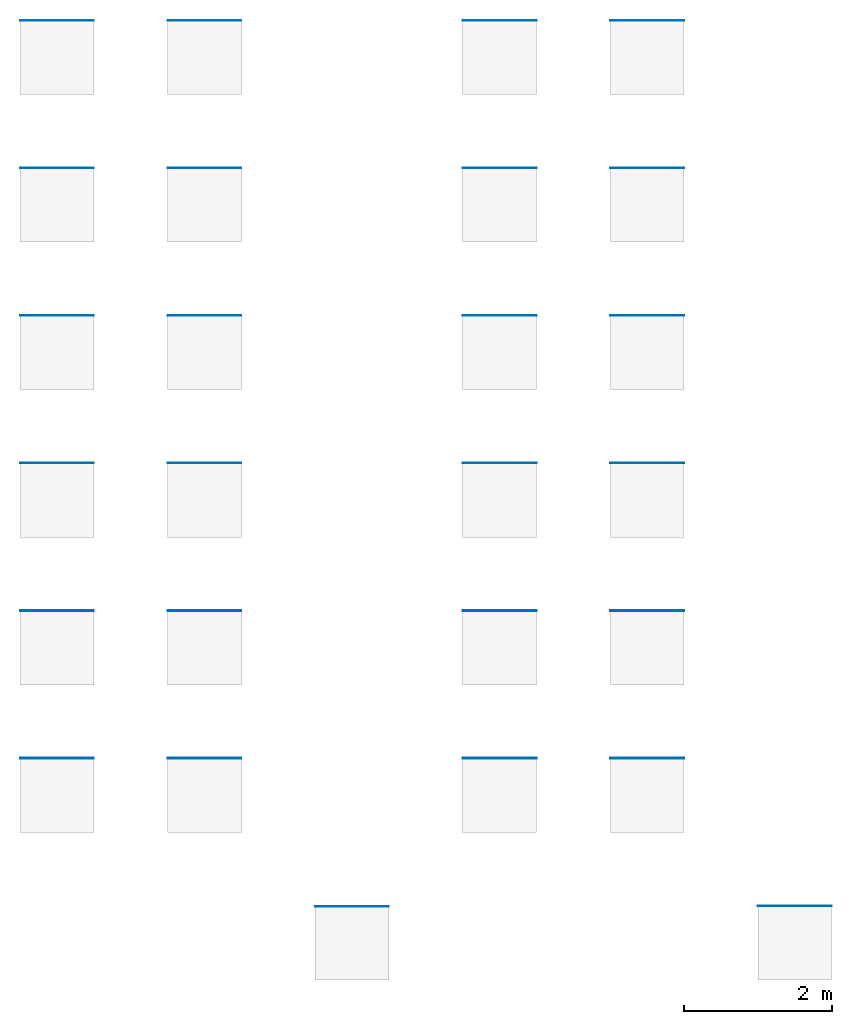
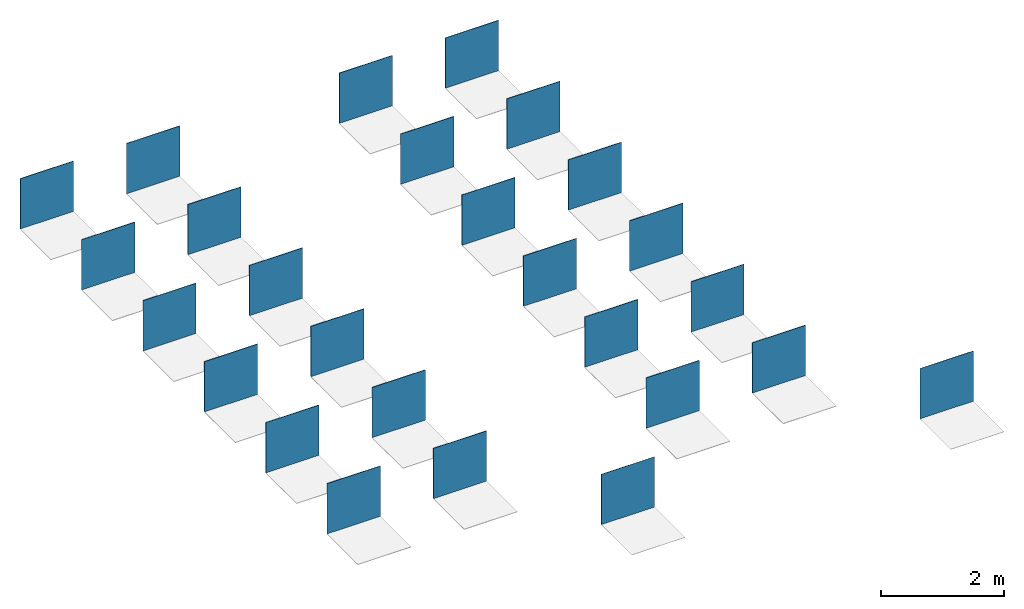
# One storey, part 1 of 2: 26 walls.
"""IFC2X3 building model written with IfcOpenShell, lengths in millimetres."""

from ifc_helpers import new_model, entity, si_unit, converted_unit, derived_unit, direction, frame, frame_2d, origin, place, context, subcontext, project, spatial, rectangle, extrude, material, layer, layer_set, layer_usage, type_object, element, save


model = new_model("IFC2X3")

# Units and contexts
model_context = context("Model", 3, precision=0.01, world=origin(), true_north=direction((6.12303176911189e-17, 1.0)))
body_context = subcontext(model_context, "Body", "Model", "MODEL_VIEW")
ifc_project = project(units=[si_unit("LENGTHUNIT", "METRE", prefix="MILLI"), si_unit("AREAUNIT", "SQUARE_METRE"), si_unit("VOLUMEUNIT", "CUBIC_METRE"), converted_unit("PLANEANGLEUNIT", "DEGREE", entity("IfcRatioMeasure", 0.0174532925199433), si_unit("PLANEANGLEUNIT", "RADIAN"), dimensions=[0, 0, 0, 0, 0, 0, 0]), si_unit("MASSUNIT", "GRAM", prefix="KILO"), derived_unit("MASSDENSITYUNIT", [(si_unit("MASSUNIT", "GRAM", prefix="KILO"), 1), (si_unit("LENGTHUNIT", "METRE"), -3)]), derived_unit("MOMENTOFINERTIAUNIT", [(si_unit("LENGTHUNIT", "METRE"), 4)]), si_unit("TIMEUNIT", "SECOND"), si_unit("FREQUENCYUNIT", "HERTZ"), si_unit("THERMODYNAMICTEMPERATUREUNIT", "DEGREE_CELSIUS"), derived_unit("THERMALTRANSMITTANCEUNIT", [(si_unit("MASSUNIT", "GRAM", prefix="KILO"), 1), (si_unit("THERMODYNAMICTEMPERATUREUNIT", "KELVIN"), -1), (si_unit("TIMEUNIT", "SECOND"), -3)]), derived_unit("VOLUMETRICFLOWRATEUNIT", [(si_unit("LENGTHUNIT", "METRE"), 3), (si_unit("TIMEUNIT", "SECOND"), -1)]), si_unit("ELECTRICCURRENTUNIT", "AMPERE"), si_unit("ELECTRICVOLTAGEUNIT", "VOLT"), si_unit("POWERUNIT", "WATT"), si_unit("FORCEUNIT", "NEWTON", prefix="KILO"), si_unit("ILLUMINANCEUNIT", "LUX"), si_unit("LUMINOUSFLUXUNIT", "LUMEN"), si_unit("LUMINOUSINTENSITYUNIT", "CANDELA"), derived_unit("USERDEFINED", [(si_unit("MASSUNIT", "GRAM", prefix="KILO"), -1), (si_unit("LENGTHUNIT", "METRE"), -2), (si_unit("TIMEUNIT", "SECOND"), 3), (si_unit("LUMINOUSFLUXUNIT", "LUMEN"), 1)]), derived_unit("LINEARVELOCITYUNIT", [(si_unit("LENGTHUNIT", "METRE"), 1), (si_unit("TIMEUNIT", "SECOND"), -1)]), si_unit("PRESSUREUNIT", "PASCAL"), derived_unit("USERDEFINED", [(si_unit("LENGTHUNIT", "METRE"), -2), (si_unit("MASSUNIT", "GRAM", prefix="KILO"), 1), (si_unit("TIMEUNIT", "SECOND"), -2)]), derived_unit("LINEARFORCEUNIT", [(si_unit("MASSUNIT", "GRAM", prefix="KILO"), 1), (si_unit("LENGTHUNIT", "METRE"), 1), (si_unit("TIMEUNIT", "SECOND"), -2), (si_unit("LENGTHUNIT", "METRE"), -1)]), derived_unit("PLANARFORCEUNIT", [(si_unit("MASSUNIT", "GRAM", prefix="KILO"), 1), (si_unit("LENGTHUNIT", "METRE"), 1), (si_unit("TIMEUNIT", "SECOND"), -2), (si_unit("LENGTHUNIT", "METRE"), -2)])], contexts=[model_context])

# Site, building, storey
site_placement = place(None, origin())
site = spatial("IfcSite", under=ifc_project, at=site_placement, Name="Default", CompositionType="ELEMENT")
building_placement = place(site_placement, origin())
building = spatial("IfcBuilding", under=site, at=building_placement, CompositionType="ELEMENT")
storey_placement = place(building_placement, origin())
storey = spatial("IfcBuildingStorey", under=building, at=storey_placement, Name="Level 1", CompositionType="ELEMENT", Elevation=0.0)

# Walls
ifc_material_1 = material(Name="REVIGRÉS-RULE-BASE-19.6x118.6-SILK-ALLOY")
ifc_layer_1 = layer(ifc_material_1, 10.5)
ifc_layer_set_1 = layer_set([ifc_layer_1], Name="Basic Wall:REVIGRÉS-RULE-BASE-19,6x118,6-SILK-ALLOY")
ifc_layer_usage_1 = layer_usage(ifc_layer_set_1, "AXIS2", "POSITIVE", -5.25)
wall_type_1 = type_object("IfcWallType", Name="Basic Wall:REVIGRÉS-RULE-BASE-19,6x118,6-SILK-ALLOY", PredefinedType="STANDARD", material=ifc_layer_set_1)
wall_1_placement = place(storey_placement, frame((105.346935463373, 19025.6276243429, 0.0)))
element("IfcWallStandardCase", 1, at=wall_1_placement, inside=storey, type_object=wall_type_1, material=ifc_layer_usage_1, Name="Basic Wall:REVIGRÉS-RULE-BASE-19,6x118,6-SILK-ALLOY:2486", ObjectType="Basic Wall:REVIGRÉS-RULE-BASE-19,6x118,6-SILK-ALLOY", context=body_context, shape_type="SweptSolid", body=[
    extrude(rectangle(XDim=1000.0, YDim=10.5000000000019, at=frame_2d((500.0, 5.41344746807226e-13), x_axis=(-1.0, 0.0))), origin(), (0.0, 0.0, 1.0), 1000.0),
])
ifc_material_2 = material(Name="REVIGRÉS-RULE-BASE-19.6x118.6-SILK-SMOG")
ifc_layer_2 = layer(ifc_material_2, 10.5)
ifc_layer_set_2 = layer_set([ifc_layer_2], Name="Basic Wall:REVIGRÉS-RULE-BASE-19,6x118,6-SILK-SMOG")
ifc_layer_usage_2 = layer_usage(ifc_layer_set_2, "AXIS2", "POSITIVE", -5.25)
wall_type_2 = type_object("IfcWallType", Name="Basic Wall:REVIGRÉS-RULE-BASE-19,6x118,6-SILK-SMOG", PredefinedType="STANDARD", material=ifc_layer_set_2)
wall_2_placement = place(storey_placement, frame((6105.34693546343, 19025.6276243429, 0.0)))
element("IfcWallStandardCase", 2, at=wall_2_placement, inside=storey, type_object=wall_type_2, material=ifc_layer_usage_2, Name="Basic Wall:REVIGRÉS-RULE-BASE-19,6x118,6-SILK-SMOG", ObjectType="Basic Wall:REVIGRÉS-RULE-BASE-19,6x118,6-SILK-SMOG", context=body_context, shape_type="SweptSolid", body=[
    extrude(rectangle(XDim=1000.0, YDim=10.5000000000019, at=frame_2d((500.0, 5.41344746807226e-13), x_axis=(-1.0, 0.0))), origin(), (0.0, 0.0, 1.0), 1000.0),
])
ifc_material_3 = material(Name="REVIGRÉS-RULE-BASE-19.6x118.6-SOFT GRIP-ALLOY")
ifc_layer_3 = layer(ifc_material_3, 10.5)
ifc_layer_set_3 = layer_set([ifc_layer_3], Name="Basic Wall:REVIGRÉS-RULE-BASE-19,6x118,6-SOFT GRIP-ALLOY")
ifc_layer_usage_3 = layer_usage(ifc_layer_set_3, "AXIS2", "POSITIVE", -5.25)
wall_type_3 = type_object("IfcWallType", Name="Basic Wall:REVIGRÉS-RULE-BASE-19,6x118,6-SOFT GRIP-ALLOY", PredefinedType="STANDARD", material=ifc_layer_set_3)
wall_3_placement = place(storey_placement, frame((2105.34693546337, 19025.6276243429, 0.0)))
element("IfcWallStandardCase", 3, at=wall_3_placement, inside=storey, type_object=wall_type_3, material=ifc_layer_usage_3, Name="Basic Wall:REVIGRÉS-RULE-BASE-19,6x118,6-SOFT GRIP-ALLOY", ObjectType="Basic Wall:REVIGRÉS-RULE-BASE-19,6x118,6-SOFT GRIP-ALLOY", context=body_context, shape_type="SweptSolid", body=[
    extrude(rectangle(XDim=1000.0, YDim=10.5000000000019, at=frame_2d((500.0, 5.41344746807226e-13), x_axis=(-1.0, 0.0))), origin(), (0.0, 0.0, 1.0), 1000.0),
])
ifc_material_4 = material(Name="REVIGRÉS-RULE-BASE-19.6x118.6-SOFT GRIP-SMOG")
ifc_layer_4 = layer(ifc_material_4, 10.5)
ifc_layer_set_4 = layer_set([ifc_layer_4], Name="Basic Wall:REVIGRÉS-RULE-BASE-19,6x118,6-SOFT GRIP-SMOG")
ifc_layer_usage_4 = layer_usage(ifc_layer_set_4, "AXIS2", "POSITIVE", -5.25)
wall_type_4 = type_object("IfcWallType", Name="Basic Wall:REVIGRÉS-RULE-BASE-19,6x118,6-SOFT GRIP-SMOG", PredefinedType="STANDARD", material=ifc_layer_set_4)
wall_4_placement = place(storey_placement, frame((8105.3469354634, 19025.6276243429, 0.0)))
element("IfcWallStandardCase", 4, at=wall_4_placement, inside=storey, type_object=wall_type_4, material=ifc_layer_usage_4, Name="Basic Wall:REVIGRÉS-RULE-BASE-19,6x118,6-SOFT GRIP-SMOG", ObjectType="Basic Wall:REVIGRÉS-RULE-BASE-19,6x118,6-SOFT GRIP-SMOG", context=body_context, shape_type="SweptSolid", body=[
    extrude(rectangle(XDim=999.999999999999, YDim=10.5000000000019, at=frame_2d((499.999999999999, 5.41344746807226e-13), x_axis=(-1.0, 0.0))), origin(), (0.0, 0.0, 1.0), 1000.0),
])
ifc_material_5 = material(Name="REVIGRÉS-RULE-BASE-19.6x178-SILK-ALLOY")
ifc_layer_5 = layer(ifc_material_5, 11.2)
ifc_layer_set_5 = layer_set([ifc_layer_5], Name="Basic Wall:REVIGRÉS-RULE-BASE-19,6x178-SILK-ALLOY")
ifc_layer_usage_5 = layer_usage(ifc_layer_set_5, "AXIS2", "POSITIVE", -5.6)
wall_type_5 = type_object("IfcWallType", Name="Basic Wall:REVIGRÉS-RULE-BASE-19,6x178-SILK-ALLOY", PredefinedType="STANDARD", material=ifc_layer_set_5)
wall_5_placement = place(storey_placement, frame((105.346935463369, 17025.9776243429, 0.0)))
element("IfcWallStandardCase", 5, at=wall_5_placement, inside=storey, type_object=wall_type_5, material=ifc_layer_usage_5, Name="Basic Wall:REVIGRÉS-RULE-BASE-19,6x178-SILK-ALLOY", ObjectType="Basic Wall:REVIGRÉS-RULE-BASE-19,6x178-SILK-ALLOY", context=body_context, shape_type="SweptSolid", body=[
    extrude(rectangle(XDim=1000.0, YDim=11.2000000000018, at=frame_2d((500.0, 5.41788836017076e-13), x_axis=(-1.0, 0.0))), origin(), (0.0, 0.0, 1.0), 1000.0),
])
ifc_material_6 = material(Name="REVIGRÉS-RULE-BASE-19.6x178-SILK-SMOG")
ifc_layer_6 = layer(ifc_material_6, 11.2)
ifc_layer_set_6 = layer_set([ifc_layer_6], Name="Basic Wall:REVIGRÉS-RULE-BASE-19,6x178-SILK-SMOG")
ifc_layer_usage_6 = layer_usage(ifc_layer_set_6, "AXIS2", "POSITIVE", -5.6)
wall_type_6 = type_object("IfcWallType", Name="Basic Wall:REVIGRÉS-RULE-BASE-19,6x178-SILK-SMOG", PredefinedType="STANDARD", material=ifc_layer_set_6)
wall_6_placement = place(storey_placement, frame((6105.3469354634, 17025.9776243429, 0.0)))
element("IfcWallStandardCase", 6, at=wall_6_placement, inside=storey, type_object=wall_type_6, material=ifc_layer_usage_6, Name="Basic Wall:REVIGRÉS-RULE-BASE-19,6x178-SILK-SMOG", ObjectType="Basic Wall:REVIGRÉS-RULE-BASE-19,6x178-SILK-SMOG", context=body_context, shape_type="SweptSolid", body=[
    extrude(rectangle(XDim=1000.0, YDim=11.2000000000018, at=frame_2d((500.0, 5.41788836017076e-13), x_axis=(-1.0, 0.0))), origin(), (0.0, 0.0, 1.0), 1000.0),
])
ifc_material_7 = material(Name="REVIGRÉS-RULE-BASE-19.6x178-SOFT GRIP-ALLOY")
ifc_layer_7 = layer(ifc_material_7, 11.2)
ifc_layer_set_7 = layer_set([ifc_layer_7], Name="Basic Wall:REVIGRÉS-RULE-BASE-19,6x178-SOFT GRIP-ALLOY")
ifc_layer_usage_7 = layer_usage(ifc_layer_set_7, "AXIS2", "POSITIVE", -5.6)
wall_type_7 = type_object("IfcWallType", Name="Basic Wall:REVIGRÉS-RULE-BASE-19,6x178-SOFT GRIP-ALLOY", PredefinedType="STANDARD", material=ifc_layer_set_7)
wall_7_placement = place(storey_placement, frame((2105.34693546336, 17025.9776243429, 0.0)))
element("IfcWallStandardCase", 7, at=wall_7_placement, inside=storey, type_object=wall_type_7, material=ifc_layer_usage_7, Name="Basic Wall:REVIGRÉS-RULE-BASE-19,6x178-SOFT GRIP-ALLOY", ObjectType="Basic Wall:REVIGRÉS-RULE-BASE-19,6x178-SOFT GRIP-ALLOY", context=body_context, shape_type="SweptSolid", body=[
    extrude(rectangle(XDim=1000.0, YDim=11.2000000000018, at=frame_2d((500.0, 5.41788836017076e-13), x_axis=(-1.0, 0.0))), origin(), (0.0, 0.0, 1.0), 1000.0),
])
ifc_material_8 = material(Name="REVIGRÉS-RULE-BASE-19.6x178-SOFT GRIP-SMOG")
ifc_layer_8 = layer(ifc_material_8, 11.2)
ifc_layer_set_8 = layer_set([ifc_layer_8], Name="Basic Wall:REVIGRÉS-RULE-BASE-19,6x178-SOFT GRIP-SMOG")
ifc_layer_usage_8 = layer_usage(ifc_layer_set_8, "AXIS2", "POSITIVE", -5.6)
wall_type_8 = type_object("IfcWallType", Name="Basic Wall:REVIGRÉS-RULE-BASE-19,6x178-SOFT GRIP-SMOG", PredefinedType="STANDARD", material=ifc_layer_set_8)
wall_8_placement = place(storey_placement, frame((8105.3469354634, 17025.9776243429, 0.0)))
element("IfcWallStandardCase", 8, at=wall_8_placement, inside=storey, type_object=wall_type_8, material=ifc_layer_usage_8, Name="Basic Wall:REVIGRÉS-RULE-BASE-19,6x178-SOFT GRIP-SMOG", ObjectType="Basic Wall:REVIGRÉS-RULE-BASE-19,6x178-SOFT GRIP-SMOG", context=body_context, shape_type="SweptSolid", body=[
    extrude(rectangle(XDim=999.999999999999, YDim=11.2000000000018, at=frame_2d((499.999999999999, 5.41788836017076e-13), x_axis=(-1.0, 0.0))), origin(), (0.0, 0.0, 1.0), 1000.0),
])
ifc_material_9 = material(Name="REVIGRÉS-RULE-BASE-29.5x118.6-SILK-ALLOY")
ifc_layer_9 = layer(ifc_material_9, 10.5)
ifc_layer_set_9 = layer_set([ifc_layer_9], Name="Basic Wall:REVIGRÉS-RULE-BASE-29,5x118,6-SILK-ALLOY")
ifc_layer_usage_9 = layer_usage(ifc_layer_set_9, "AXIS2", "POSITIVE", -5.25)
wall_type_9 = type_object("IfcWallType", Name="Basic Wall:REVIGRÉS-RULE-BASE-29,5x118,6-SILK-ALLOY", PredefinedType="STANDARD", material=ifc_layer_set_9)
wall_9_placement = place(storey_placement, frame((105.346935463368, 15025.6276243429, 0.0)))
element("IfcWallStandardCase", 9, at=wall_9_placement, inside=storey, type_object=wall_type_9, material=ifc_layer_usage_9, Name="Basic Wall:REVIGRÉS-RULE-BASE-29,5x118,6-SILK-ALLOY", ObjectType="Basic Wall:REVIGRÉS-RULE-BASE-29,5x118,6-SILK-ALLOY", context=body_context, shape_type="SweptSolid", body=[
    extrude(rectangle(XDim=1000.0, YDim=10.5000000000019, at=frame_2d((500.0, 5.41344746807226e-13), x_axis=(-1.0, 0.0))), origin(), (0.0, 0.0, 1.0), 1000.0),
])
ifc_material_10 = material(Name="REVIGRÉS-RULE-BASE-29.5x118.6-SOFT GRIP-ALLOY")
ifc_layer_10 = layer(ifc_material_10, 10.5)
ifc_layer_set_10 = layer_set([ifc_layer_10], Name="Basic Wall:REVIGRÉS-RULE-BASE-29,5x118,6-SOFT GRIP-ALLOY")
ifc_layer_usage_10 = layer_usage(ifc_layer_set_10, "AXIS2", "POSITIVE", -5.25)
wall_type_10 = type_object("IfcWallType", Name="Basic Wall:REVIGRÉS-RULE-BASE-29,5x118,6-SOFT GRIP-ALLOY", PredefinedType="STANDARD", material=ifc_layer_set_10)
wall_10_placement = place(storey_placement, frame((2105.34693546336, 15025.6276243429, 0.0)))
element("IfcWallStandardCase", 10, at=wall_10_placement, inside=storey, type_object=wall_type_10, material=ifc_layer_usage_10, Name="Basic Wall:REVIGRÉS-RULE-BASE-29,5x118,6-SOFT GRIP-ALLOY", ObjectType="Basic Wall:REVIGRÉS-RULE-BASE-29,5x118,6-SOFT GRIP-ALLOY", context=body_context, shape_type="SweptSolid", body=[
    extrude(rectangle(XDim=1000.0, YDim=10.5000000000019, at=frame_2d((500.0, 5.41344746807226e-13), x_axis=(-1.0, 0.0))), origin(), (0.0, 0.0, 1.0), 1000.0),
])
ifc_material_11 = material(Name="REVIGRÉS-RULE-BASE-29.5x178-SILK-ALLOY")
ifc_layer_11 = layer(ifc_material_11, 11.2)
ifc_layer_set_11 = layer_set([ifc_layer_11], Name="Basic Wall:REVIGRÉS-RULE-BASE-29,5x178-SILK-ALLOY")
ifc_layer_usage_11 = layer_usage(ifc_layer_set_11, "AXIS2", "POSITIVE", -5.6)
wall_type_11 = type_object("IfcWallType", Name="Basic Wall:REVIGRÉS-RULE-BASE-29,5x178-SILK-ALLOY", PredefinedType="STANDARD", material=ifc_layer_set_11)
wall_11_placement = place(storey_placement, frame((105.346935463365, 13025.9776243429, 0.0)))
element("IfcWallStandardCase", 11, at=wall_11_placement, inside=storey, type_object=wall_type_11, material=ifc_layer_usage_11, Name="Basic Wall:REVIGRÉS-RULE-BASE-29,5x178-SILK-ALLOY", ObjectType="Basic Wall:REVIGRÉS-RULE-BASE-29,5x178-SILK-ALLOY", context=body_context, shape_type="SweptSolid", body=[
    extrude(rectangle(XDim=1000.0, YDim=11.2000000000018, at=frame_2d((500.0, 5.41788836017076e-13), x_axis=(-1.0, 0.0))), origin(), (0.0, 0.0, 1.0), 1000.0),
])
ifc_material_12 = material(Name="REVIGRÉS-RULE-BASE-29.5x178-SOFT GRIP-ALLOY")
ifc_layer_12 = layer(ifc_material_12, 11.2)
ifc_layer_set_12 = layer_set([ifc_layer_12], Name="Basic Wall:REVIGRÉS-RULE-BASE-29,5x178-SOFT GRIP-ALLOY")
ifc_layer_usage_12 = layer_usage(ifc_layer_set_12, "AXIS2", "POSITIVE", -5.6)
wall_type_12 = type_object("IfcWallType", Name="Basic Wall:REVIGRÉS-RULE-BASE-29,5x178-SOFT GRIP-ALLOY", PredefinedType="STANDARD", material=ifc_layer_set_12)
wall_12_placement = place(storey_placement, frame((2105.34693546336, 13025.9776243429, 0.0)))
element("IfcWallStandardCase", 12, at=wall_12_placement, inside=storey, type_object=wall_type_12, material=ifc_layer_usage_12, Name="Basic Wall:REVIGRÉS-RULE-BASE-29,5x178-SOFT GRIP-ALLOY", ObjectType="Basic Wall:REVIGRÉS-RULE-BASE-29,5x178-SOFT GRIP-ALLOY", context=body_context, shape_type="SweptSolid", body=[
    extrude(rectangle(XDim=1000.0, YDim=11.2000000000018, at=frame_2d((500.0, 5.41788836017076e-13), x_axis=(-1.0, 0.0))), origin(), (0.0, 0.0, 1.0), 1000.0),
])
ifc_material_13 = material(Name="REVIGRÉS-RULE-BASE-59.2x118.6-SILK-ALLOY")
ifc_layer_13 = layer(ifc_material_13, 10.5)
ifc_layer_set_13 = layer_set([ifc_layer_13], Name="Basic Wall:REVIGRÉS-RULE-BASE-59,2x118,6-SILK-ALLOY")
ifc_layer_usage_13 = layer_usage(ifc_layer_set_13, "AXIS2", "POSITIVE", -5.25)
wall_type_13 = type_object("IfcWallType", Name="Basic Wall:REVIGRÉS-RULE-BASE-59,2x118,6-SILK-ALLOY", PredefinedType="STANDARD", material=ifc_layer_set_13)
wall_13_placement = place(storey_placement, frame((105.346935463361, 11025.6276243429, 0.0)))
element("IfcWallStandardCase", 13, at=wall_13_placement, inside=storey, type_object=wall_type_13, material=ifc_layer_usage_13, Name="Basic Wall:REVIGRÉS-RULE-BASE-59,2x118,6-SILK-ALLOY", ObjectType="Basic Wall:REVIGRÉS-RULE-BASE-59,2x118,6-SILK-ALLOY", context=body_context, shape_type="SweptSolid", body=[
    extrude(rectangle(XDim=1000.0, YDim=10.5000000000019, at=frame_2d((500.0, 5.41344746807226e-13), x_axis=(-1.0, 0.0))), origin(), (0.0, 0.0, 1.0), 1000.0),
])
ifc_material_14 = material(Name="REVIGRÉS-RULE-BASE-59.2x118.6-SOFT GRIP-ALLOY")
ifc_layer_14 = layer(ifc_material_14, 10.5)
ifc_layer_set_14 = layer_set([ifc_layer_14], Name="Basic Wall:REVIGRÉS-RULE-BASE-59,2x118,6-SOFT GRIP-ALLOY")
ifc_layer_usage_14 = layer_usage(ifc_layer_set_14, "AXIS2", "POSITIVE", -5.25)
wall_type_14 = type_object("IfcWallType", Name="Basic Wall:REVIGRÉS-RULE-BASE-59,2x118,6-SOFT GRIP-ALLOY", PredefinedType="STANDARD", material=ifc_layer_set_14)
wall_14_placement = place(storey_placement, frame((2105.34693546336, 11025.6276243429, 0.0)))
element("IfcWallStandardCase", 14, at=wall_14_placement, inside=storey, type_object=wall_type_14, material=ifc_layer_usage_14, Name="Basic Wall:REVIGRÉS-RULE-BASE-59,2x118,6-SOFT GRIP-ALLOY", ObjectType="Basic Wall:REVIGRÉS-RULE-BASE-59,2x118,6-SOFT GRIP-ALLOY", context=body_context, shape_type="SweptSolid", body=[
    extrude(rectangle(XDim=1000.0, YDim=10.5000000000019, at=frame_2d((500.0, 5.41344746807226e-13), x_axis=(-1.0, 0.0))), origin(), (0.0, 0.0, 1.0), 1000.0),
])
ifc_material_15 = material(Name="REVIGRÉS-RULE-BASE-59.2x178-SILK-ALLOY")
ifc_layer_15 = layer(ifc_material_15, 11.2)
ifc_layer_set_15 = layer_set([ifc_layer_15], Name="Basic Wall:REVIGRÉS-RULE-BASE-59,2x178-SILK-ALLOY")
ifc_layer_usage_15 = layer_usage(ifc_layer_set_15, "AXIS2", "POSITIVE", -5.6)
wall_type_15 = type_object("IfcWallType", Name="Basic Wall:REVIGRÉS-RULE-BASE-59,2x178-SILK-ALLOY", PredefinedType="STANDARD", material=ifc_layer_set_15)
wall_15_placement = place(storey_placement, frame((105.346935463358, 9025.9776243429, 0.0)))
element("IfcWallStandardCase", 15, at=wall_15_placement, inside=storey, type_object=wall_type_15, material=ifc_layer_usage_15, Name="Basic Wall:REVIGRÉS-RULE-BASE-59,2x178-SILK-ALLOY", ObjectType="Basic Wall:REVIGRÉS-RULE-BASE-59,2x178-SILK-ALLOY", context=body_context, shape_type="SweptSolid", body=[
    extrude(rectangle(XDim=1000.0, YDim=11.1999999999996, at=frame_2d((500.0, 0.0), x_axis=(-1.0, 0.0))), origin(), (0.0, 0.0, 1.0), 1000.0),
])
ifc_material_16 = material(Name="REVIGRÉS-RULE-BASE-59.2x178-SOFT GRIP-ALLOY")
ifc_layer_16 = layer(ifc_material_16, 11.2)
ifc_layer_set_16 = layer_set([ifc_layer_16], Name="Basic Wall:REVIGRÉS-RULE-BASE-59,2x178-SOFT GRIP-ALLOY")
ifc_layer_usage_16 = layer_usage(ifc_layer_set_16, "AXIS2", "POSITIVE", -5.6)
wall_type_16 = type_object("IfcWallType", Name="Basic Wall:REVIGRÉS-RULE-BASE-59,2x178-SOFT GRIP-ALLOY", PredefinedType="STANDARD", material=ifc_layer_set_16)
wall_16_placement = place(storey_placement, frame((2105.34693546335, 9025.97762434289, 0.0)))
element("IfcWallStandardCase", 16, at=wall_16_placement, inside=storey, type_object=wall_type_16, material=ifc_layer_usage_16, Name="Basic Wall:REVIGRÉS-RULE-BASE-59,2x178-SOFT GRIP-ALLOY", ObjectType="Basic Wall:REVIGRÉS-RULE-BASE-59,2x178-SOFT GRIP-ALLOY", context=body_context, shape_type="SweptSolid", body=[
    extrude(rectangle(XDim=1000.0, YDim=11.1999999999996, at=frame_2d((500.0, 0.0), x_axis=(-1.0, 0.0))), origin(), (0.0, 0.0, 1.0), 1000.0),
])
ifc_material_17 = material(Name="REVIGRÉS-RULE-BASE-29.5x118.6-SILK-SMOG")
ifc_layer_17 = layer(ifc_material_17, 10.5)
ifc_layer_set_17 = layer_set([ifc_layer_17], Name="Basic Wall:REVIGRÉS-RULE-BASE-29,5x118,6-SILK-SMOG")
ifc_layer_usage_17 = layer_usage(ifc_layer_set_17, "AXIS2", "POSITIVE", -5.25)
wall_type_17 = type_object("IfcWallType", Name="Basic Wall:REVIGRÉS-RULE-BASE-29,5x118,6-SILK-SMOG", PredefinedType="STANDARD", material=ifc_layer_set_17)
wall_17_placement = place(storey_placement, frame((6105.34693546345, 15025.6276243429, 0.0)))
element("IfcWallStandardCase", 17, at=wall_17_placement, inside=storey, type_object=wall_type_17, material=ifc_layer_usage_17, Name="Basic Wall:REVIGRÉS-RULE-BASE-29,5x118,6-SILK-SMOG", ObjectType="Basic Wall:REVIGRÉS-RULE-BASE-29,5x118,6-SILK-SMOG", context=body_context, shape_type="SweptSolid", body=[
    extrude(rectangle(XDim=1000.0, YDim=10.5000000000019, at=frame_2d((500.0, 5.41344746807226e-13), x_axis=(-1.0, 0.0))), origin(), (0.0, 0.0, 1.0), 1000.0),
])
ifc_material_18 = material(Name="REVIGRÉS-RULE-BASE-29.5x118.6-SOFT GRIP-SMOG")
ifc_layer_18 = layer(ifc_material_18, 10.5)
ifc_layer_set_18 = layer_set([ifc_layer_18], Name="Basic Wall:REVIGRÉS-RULE-BASE-29,5x118,6-SOFT GRIP-SMOG")
ifc_layer_usage_18 = layer_usage(ifc_layer_set_18, "AXIS2", "POSITIVE", -5.25)
wall_type_18 = type_object("IfcWallType", Name="Basic Wall:REVIGRÉS-RULE-BASE-29,5x118,6-SOFT GRIP-SMOG", PredefinedType="STANDARD", material=ifc_layer_set_18)
wall_18_placement = place(storey_placement, frame((8105.34693546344, 15025.6276243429, 0.0)))
element("IfcWallStandardCase", 18, at=wall_18_placement, inside=storey, type_object=wall_type_18, material=ifc_layer_usage_18, Name="Basic Wall:REVIGRÉS-RULE-BASE-29,5x118,6-SOFT GRIP-SMOG", ObjectType="Basic Wall:REVIGRÉS-RULE-BASE-29,5x118,6-SOFT GRIP-SMOG", context=body_context, shape_type="SweptSolid", body=[
    extrude(rectangle(XDim=999.999999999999, YDim=10.5000000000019, at=frame_2d((499.999999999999, 5.41344746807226e-13), x_axis=(-1.0, 0.0))), origin(), (0.0, 0.0, 1.0), 1000.0),
])
ifc_material_19 = material(Name="REVIGRÉS-RULE-BASE-29.5x178-SILK-SMOG")
ifc_layer_19 = layer(ifc_material_19, 11.2)
ifc_layer_set_19 = layer_set([ifc_layer_19], Name="Basic Wall:REVIGRÉS-RULE-BASE-29,5x178-SILK-SMOG")
ifc_layer_usage_19 = layer_usage(ifc_layer_set_19, "AXIS2", "POSITIVE", -5.6)
wall_type_19 = type_object("IfcWallType", Name="Basic Wall:REVIGRÉS-RULE-BASE-29,5x178-SILK-SMOG", PredefinedType="STANDARD", material=ifc_layer_set_19)
wall_19_placement = place(storey_placement, frame((6105.34693546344, 13025.9776243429, 0.0)))
element("IfcWallStandardCase", 19, at=wall_19_placement, inside=storey, type_object=wall_type_19, material=ifc_layer_usage_19, Name="Basic Wall:REVIGRÉS-RULE-BASE-29,5x178-SILK-SMOG", ObjectType="Basic Wall:REVIGRÉS-RULE-BASE-29,5x178-SILK-SMOG", context=body_context, shape_type="SweptSolid", body=[
    extrude(rectangle(XDim=1000.0, YDim=11.2000000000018, at=frame_2d((500.0, 5.41788836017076e-13), x_axis=(-1.0, 0.0))), origin(), (0.0, 0.0, 1.0), 1000.0),
])
ifc_material_20 = material(Name="REVIGRÉS-RULE-BASE-29.5x178-SOFT GRIP-SMOG")
ifc_layer_20 = layer(ifc_material_20, 11.2)
ifc_layer_set_20 = layer_set([ifc_layer_20], Name="Basic Wall:REVIGRÉS-RULE-BASE-29,5x178-SOFT GRIP-SMOG")
ifc_layer_usage_20 = layer_usage(ifc_layer_set_20, "AXIS2", "POSITIVE", -5.6)
wall_type_20 = type_object("IfcWallType", Name="Basic Wall:REVIGRÉS-RULE-BASE-29,5x178-SOFT GRIP-SMOG", PredefinedType="STANDARD", material=ifc_layer_set_20)
wall_20_placement = place(storey_placement, frame((8105.34693546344, 13025.9776243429, 0.0)))
element("IfcWallStandardCase", 20, at=wall_20_placement, inside=storey, type_object=wall_type_20, material=ifc_layer_usage_20, Name="Basic Wall:REVIGRÉS-RULE-BASE-29,5x178-SOFT GRIP-SMOG", ObjectType="Basic Wall:REVIGRÉS-RULE-BASE-29,5x178-SOFT GRIP-SMOG", context=body_context, shape_type="SweptSolid", body=[
    extrude(rectangle(XDim=1000.0, YDim=11.2000000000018, at=frame_2d((500.0, 5.41788836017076e-13), x_axis=(-1.0, 0.0))), origin(), (0.0, 0.0, 1.0), 1000.0),
])
ifc_material_21 = material(Name="REVIGRÉS-RULE-BASE-59.2x118.6-SILK-SMOG")
ifc_layer_21 = layer(ifc_material_21, 10.5)
ifc_layer_set_21 = layer_set([ifc_layer_21], Name="Basic Wall:REVIGRÉS-RULE-BASE-59,2x118,6-SILK-SMOG")
ifc_layer_usage_21 = layer_usage(ifc_layer_set_21, "AXIS2", "POSITIVE", -5.25)
wall_type_21 = type_object("IfcWallType", Name="Basic Wall:REVIGRÉS-RULE-BASE-59,2x118,6-SILK-SMOG", PredefinedType="STANDARD", material=ifc_layer_set_21)
wall_21_placement = place(storey_placement, frame((6105.34693546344, 11025.6276243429, 0.0)))
element("IfcWallStandardCase", 21, at=wall_21_placement, inside=storey, type_object=wall_type_21, material=ifc_layer_usage_21, Name="Basic Wall:REVIGRÉS-RULE-BASE-59,2x118,6-SILK-SMOG", ObjectType="Basic Wall:REVIGRÉS-RULE-BASE-59,2x118,6-SILK-SMOG", context=body_context, shape_type="SweptSolid", body=[
    extrude(rectangle(XDim=1000.0, YDim=10.5000000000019, at=frame_2d((500.0, 5.41344746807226e-13), x_axis=(-1.0, 0.0))), origin(), (0.0, 0.0, 1.0), 1000.0),
])
ifc_material_22 = material(Name="REVIGRÉS-RULE-BASE-59.2x118.6-SOFT GRIP-SMOG")
ifc_layer_22 = layer(ifc_material_22, 10.5)
ifc_layer_set_22 = layer_set([ifc_layer_22], Name="Basic Wall:REVIGRÉS-RULE-BASE-59,2x118,6-SOFT GRIP-SMOG")
ifc_layer_usage_22 = layer_usage(ifc_layer_set_22, "AXIS2", "POSITIVE", -5.25)
wall_type_22 = type_object("IfcWallType", Name="Basic Wall:REVIGRÉS-RULE-BASE-59,2x118,6-SOFT GRIP-SMOG", PredefinedType="STANDARD", material=ifc_layer_set_22)
wall_22_placement = place(storey_placement, frame((8105.34693546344, 11025.6276243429, 0.0)))
element("IfcWallStandardCase", 22, at=wall_22_placement, inside=storey, type_object=wall_type_22, material=ifc_layer_usage_22, Name="Basic Wall:REVIGRÉS-RULE-BASE-59,2x118,6-SOFT GRIP-SMOG", ObjectType="Basic Wall:REVIGRÉS-RULE-BASE-59,2x118,6-SOFT GRIP-SMOG", context=body_context, shape_type="SweptSolid", body=[
    extrude(rectangle(XDim=999.999999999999, YDim=10.5000000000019, at=frame_2d((499.999999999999, 5.41344746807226e-13), x_axis=(-1.0, 0.0))), origin(), (0.0, 0.0, 1.0), 1000.0),
])
ifc_material_23 = material(Name="REVIGRÉS-RULE-BASE-59.2x178-SILK-SMOG")
ifc_layer_23 = layer(ifc_material_23, 11.2)
ifc_layer_set_23 = layer_set([ifc_layer_23], Name="Basic Wall:REVIGRÉS-RULE-BASE-59,2x178-SILK-SMOG")
ifc_layer_usage_23 = layer_usage(ifc_layer_set_23, "AXIS2", "POSITIVE", -5.6)
wall_type_23 = type_object("IfcWallType", Name="Basic Wall:REVIGRÉS-RULE-BASE-59,2x178-SILK-SMOG", PredefinedType="STANDARD", material=ifc_layer_set_23)
wall_23_placement = place(storey_placement, frame((6105.34693546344, 9025.97762434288, 0.0)))
element("IfcWallStandardCase", 23, at=wall_23_placement, inside=storey, type_object=wall_type_23, material=ifc_layer_usage_23, Name="Basic Wall:REVIGRÉS-RULE-BASE-59,2x178-SILK-SMOG", ObjectType="Basic Wall:REVIGRÉS-RULE-BASE-59,2x178-SILK-SMOG", context=body_context, shape_type="SweptSolid", body=[
    extrude(rectangle(XDim=1000.0, YDim=11.1999999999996, at=frame_2d((500.0, 0.0), x_axis=(-1.0, 0.0))), origin(), (0.0, 0.0, 1.0), 1000.0),
])
ifc_material_24 = material(Name="REVIGRÉS-RULE-BASE-59.2x178-SOFT GRIP-SMOG")
ifc_layer_24 = layer(ifc_material_24, 11.2)
ifc_layer_set_24 = layer_set([ifc_layer_24], Name="Basic Wall:REVIGRÉS-RULE-BASE-59,2x178-SOFT GRIP-SMOG")
ifc_layer_usage_24 = layer_usage(ifc_layer_set_24, "AXIS2", "POSITIVE", -5.6)
wall_type_24 = type_object("IfcWallType", Name="Basic Wall:REVIGRÉS-RULE-BASE-59,2x178-SOFT GRIP-SMOG", PredefinedType="STANDARD", material=ifc_layer_set_24)
wall_24_placement = place(storey_placement, frame((8105.34693546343, 9025.97762434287, 0.0)))
element("IfcWallStandardCase", 24, at=wall_24_placement, inside=storey, type_object=wall_type_24, material=ifc_layer_usage_24, Name="Basic Wall:REVIGRÉS-RULE-BASE-59,2x178-SOFT GRIP-SMOG", ObjectType="Basic Wall:REVIGRÉS-RULE-BASE-59,2x178-SOFT GRIP-SMOG", context=body_context, shape_type="SweptSolid", body=[
    extrude(rectangle(XDim=1000.0, YDim=11.1999999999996, at=frame_2d((500.0, 0.0), x_axis=(-1.0, 0.0))), origin(), (0.0, 0.0, 1.0), 1000.0),
])
ifc_material_25 = material(Name="REVIGRÉS-RULE-BASE-119.8x277.8-RECT-ALLOY")
ifc_layer_25 = layer(ifc_material_25, 6.0)
ifc_layer_set_25 = layer_set([ifc_layer_25], Name="Basic Wall:REVIGRÉS-RULE-BASE-119,8x277,8-RECT-ALLOY")
ifc_layer_usage_25 = layer_usage(ifc_layer_set_25, "AXIS2", "NEGATIVE", 3.0)
wall_type_25 = type_object("IfcWallType", Name="Basic Wall:REVIGRÉS-RULE-BASE-119,8x277,8-RECT-ALLOY", PredefinedType="STANDARD", material=ifc_layer_set_25)
wall_25_placement = place(storey_placement, frame((4105.34693546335, 7017.37762434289, 0.0)))
element("IfcWallStandardCase", 25, at=wall_25_placement, inside=storey, type_object=wall_type_25, material=ifc_layer_usage_25, Name="Basic Wall:REVIGRÉS-RULE-BASE-119,8x277,8-RECT-ALLOY", ObjectType="Basic Wall:REVIGRÉS-RULE-BASE-119,8x277,8-RECT-ALLOY", context=body_context, shape_type="SweptSolid", body=[
    extrude(rectangle(XDim=1000.0, YDim=6.0000000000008, at=frame_2d((500.0, 0.0), x_axis=(-1.0, 0.0))), origin(), (0.0, 0.0, 1.0), 1000.0),
])
ifc_material_26 = material(Name="REVIGRÉS-RULE-BASE-119.8x277.8-RECT-SMOG")
ifc_layer_26 = layer(ifc_material_26, 6.0)
ifc_layer_set_26 = layer_set([ifc_layer_26], Name="Basic Wall:REVIGRÉS-RULE-BASE-119,8x277,8-RECT-SMOG")
ifc_layer_usage_26 = layer_usage(ifc_layer_set_26, "AXIS2", "POSITIVE", -3.0)
wall_type_26 = type_object("IfcWallType", Name="Basic Wall:REVIGRÉS-RULE-BASE-119,8x277,8-RECT-SMOG", PredefinedType="STANDARD", material=ifc_layer_set_26)
wall_26_placement = place(storey_placement, frame((10105.3469354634, 7023.37762434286, 0.0)))
element("IfcWallStandardCase", 26, at=wall_26_placement, inside=storey, type_object=wall_type_26, material=ifc_layer_usage_26, Name="Basic Wall:REVIGRÉS-RULE-BASE-119,8x277,8-RECT-SMOG", ObjectType="Basic Wall:REVIGRÉS-RULE-BASE-119,8x277,8-RECT-SMOG", context=body_context, shape_type="SweptSolid", body=[
    extrude(rectangle(XDim=1000.0, YDim=6.0000000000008, at=frame_2d((500.0, 0.0), x_axis=(-1.0, 0.0))), origin(), (0.0, 0.0, 1.0), 1000.0),
])

save(model, "model.ifc")
